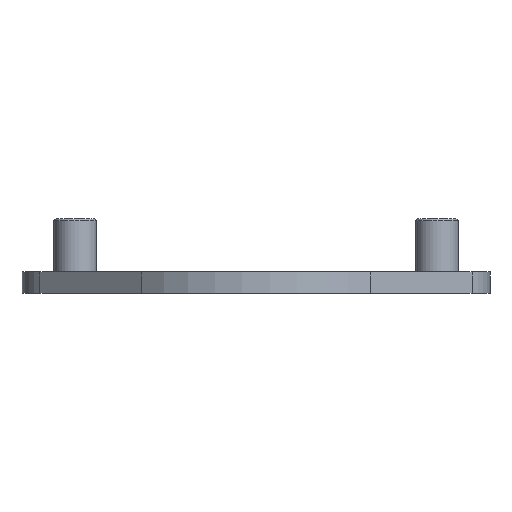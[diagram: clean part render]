
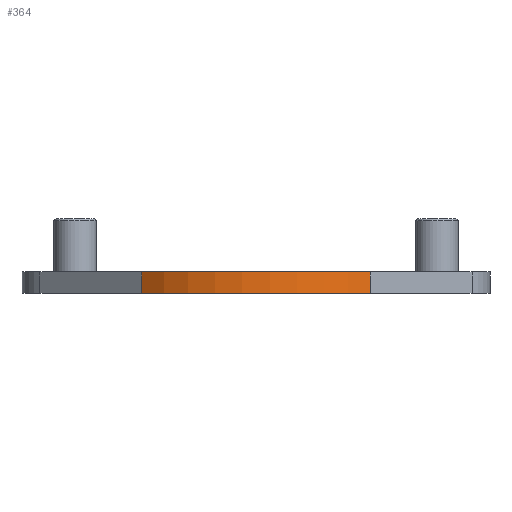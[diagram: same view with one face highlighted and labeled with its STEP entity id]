
A CAD part, front view. The second image highlights one B-rep face of the part: STEP entity #364.
In plain terms, the highlighted cylindrical face has radius 16.25 mm (diameter 32.5 mm), a partial arc.
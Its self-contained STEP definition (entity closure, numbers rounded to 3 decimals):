
#3 = VERTEX_POINT ( 'NONE', #265 ) ;
#4 = VERTEX_POINT ( 'NONE', #264 ) ;
#7 = EDGE_CURVE ( 'NONE', #4, #3, #262, .T. ) ;
#12 = VERTEX_POINT ( 'NONE', #254 ) ;
#13 = EDGE_CURVE ( 'NONE', #12, #4, #253, .T. ) ;
#250 = DIRECTION ( 'NONE',  ( 0., 0., 1. ) ) ;
#251 = VECTOR ( 'NONE', #250, 1000. ) ;
#252 = CARTESIAN_POINT ( 'NONE',  ( 10.754, -12.183, 2. ) ) ;
#253 = LINE ( 'NONE', #252, #251 ) ;
#254 = CARTESIAN_POINT ( 'NONE',  ( 10.754, -12.183, 0. ) ) ;
#258 = DIRECTION ( 'NONE',  ( -1., 0., 0. ) ) ;
#259 = DIRECTION ( 'NONE',  ( 0., 0., -1. ) ) ;
#260 = CARTESIAN_POINT ( 'NONE',  ( 0., 0., 2. ) ) ;
#261 = AXIS2_PLACEMENT_3D ( 'NONE', #260, #259, #258 ) ;
#262 = CIRCLE ( 'NONE', #261, 16.25 ) ;
#264 = CARTESIAN_POINT ( 'NONE',  ( 10.754, -12.183, 2. ) ) ;
#265 = CARTESIAN_POINT ( 'NONE',  ( -10.754, -12.183, 2. ) ) ;
#271 = ORIENTED_EDGE ( 'NONE', *, *, #7, .T. ) ;
#272 = ORIENTED_EDGE ( 'NONE', *, *, #295, .T. ) ;
#295 = EDGE_CURVE ( 'NONE', #3, #296, #424, .T. ) ;
#296 = VERTEX_POINT ( 'NONE', #420 ) ;
#306 = EDGE_LOOP ( 'NONE', ( #271, #272, #342, #339 ) ) ;
#339 = ORIENTED_EDGE ( 'NONE', *, *, #13, .T. ) ;
#342 = ORIENTED_EDGE ( 'NONE', *, *, #353, .T. ) ;
#353 = EDGE_CURVE ( 'NONE', #296, #12, #800, .T. ) ;
#364 = ADVANCED_FACE ( 'NONE', ( #641 ), #635, .T. ) ;
#420 = CARTESIAN_POINT ( 'NONE',  ( -10.754, -12.183, 0. ) ) ;
#421 = DIRECTION ( 'NONE',  ( 0., 0., -1. ) ) ;
#422 = VECTOR ( 'NONE', #421, 1000. ) ;
#423 = CARTESIAN_POINT ( 'NONE',  ( -10.754, -12.183, 2. ) ) ;
#424 = LINE ( 'NONE', #423, #422 ) ;
#635 = CYLINDRICAL_SURFACE ( 'NONE', #770, 16.25 ) ;
#641 = FACE_OUTER_BOUND ( 'NONE', #306, .T. ) ;
#767 = DIRECTION ( 'NONE',  ( -1., 0., 0. ) ) ;
#768 = DIRECTION ( 'NONE',  ( 0., 0., -1. ) ) ;
#769 = CARTESIAN_POINT ( 'NONE',  ( 0., 0., 2. ) ) ;
#770 = AXIS2_PLACEMENT_3D ( 'NONE', #769, #768, #767 ) ;
#797 = DIRECTION ( 'NONE',  ( -1., 0., 0. ) ) ;
#798 = DIRECTION ( 'NONE',  ( 0., 0., 1. ) ) ;
#799 = AXIS2_PLACEMENT_3D ( 'NONE', #804, #798, #797 ) ;
#800 = CIRCLE ( 'NONE', #799, 16.25 ) ;
#804 = CARTESIAN_POINT ( 'NONE',  ( 0., 0., 0. ) ) ;
